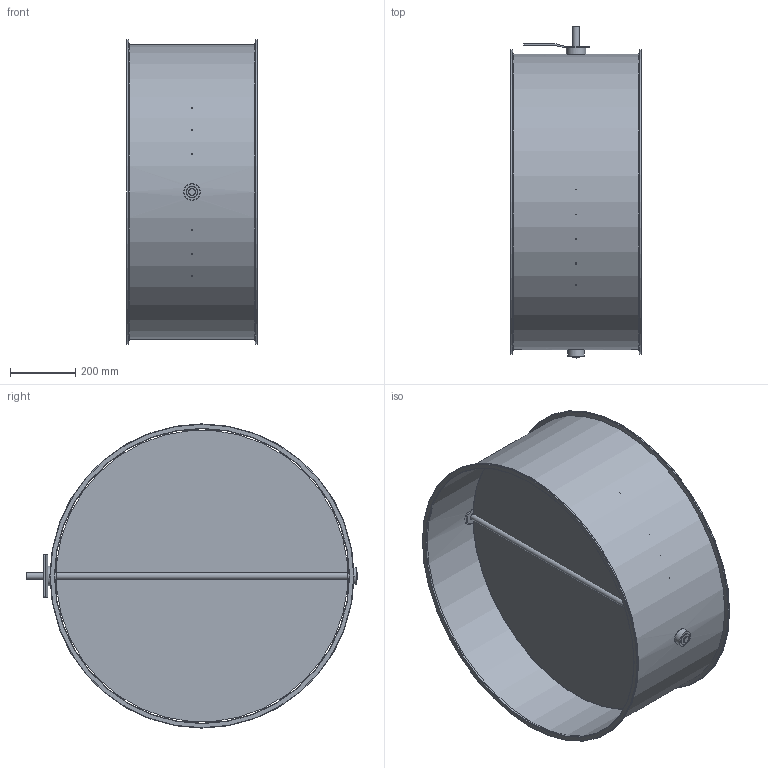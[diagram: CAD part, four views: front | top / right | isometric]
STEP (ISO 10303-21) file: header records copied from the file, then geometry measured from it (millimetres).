
FILE_DESCRIPTION(/* description */ (''),/* implementation_level */ '2;1');
FILE_NAME(/* name */ 'EA116-80B__900_L400_Belimo_Typ_GM.stp',/* time_stamp */ '2017-12-06T17:11:08+01:00',/* author */ (''),/* organization */ (''),/* preprocessor_version */ 'ST-DEVELOPER v11',/* originating_system */ 'SIEMENS UGS NX 6.0',/* authorisation */ '');
FILE_SCHEMA (('CONFIG_CONTROL_DESIGN'));
Length unit declared in the file: millimetre
Products named in the file (1): gars18E2j2qd
Bounding box: 400 x 1015 x 930 mm (x, y, z)
Volume: 3198515.9 mm3; surface area: 3814751.7 mm2
Topology: 8 solids, 8 shells, 79 faces, 167 edges, 106 vertices
Faces by surface type: plane 36, cylinder 35, torus 6, cone 2
Full cylindrical faces by diameter (mm): 8.1 x7, 20 x3, 35 x3, 35.85 x2, 36 x2, 49 x1, 50 x2, 59 x1, 900 x1, 902.4 x1, 930 x2
Entity records: 2094 total; most frequent: CARTESIAN_POINT 400, DIRECTION 352, ORIENTED_EDGE 248, AXIS2_PLACEMENT_3D 152, EDGE_LOOP 144, EDGE_CURVE 124, FACE_BOUND 114, VERTEX_POINT 96
